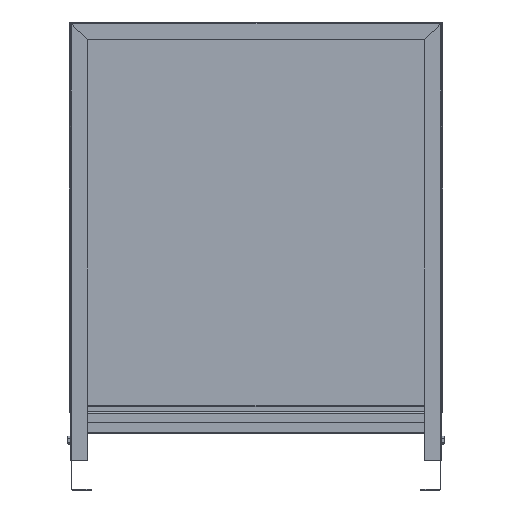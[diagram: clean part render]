
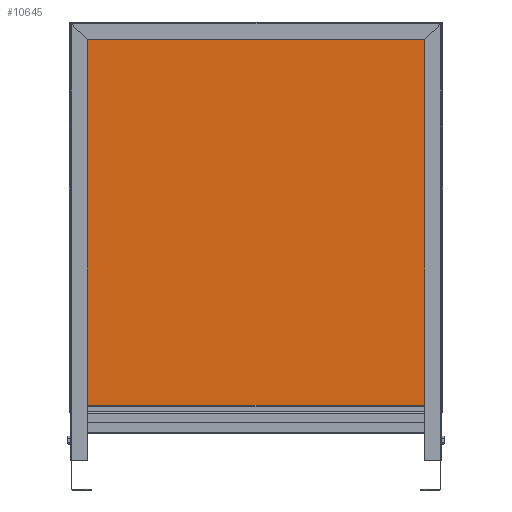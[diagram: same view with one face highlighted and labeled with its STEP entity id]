
A CAD part, front view. The second image highlights one B-rep face of the part: STEP entity #10645.
In plain terms, the highlighted planar face has unit normal (0, -1, 0).
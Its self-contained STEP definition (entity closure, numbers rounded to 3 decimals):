
#10361=CARTESIAN_POINT('',(273.5,0.8,647.2));
#10362=VERTEX_POINT('',#10361);
#10370=CARTESIAN_POINT('',(273.5,0.8,81.8));
#10371=VERTEX_POINT('',#10370);
#10372=CARTESIAN_POINT('',(273.5,0.8,647.2));
#10373=DIRECTION('',(0.,0.,-1.));
#10374=VECTOR('',#10373,565.4);
#10375=LINE('',#10372,#10374);
#10376=EDGE_CURVE('',#10362,#10371,#10375,.T.);
#10414=CARTESIAN_POINT('',(-273.5,0.8,81.8));
#10415=VERTEX_POINT('',#10414);
#10423=CARTESIAN_POINT('',(-273.5,0.8,647.2));
#10424=VERTEX_POINT('',#10423);
#10425=CARTESIAN_POINT('',(-273.5,0.8,81.8));
#10426=DIRECTION('',(0.,0.,1.));
#10427=VECTOR('',#10426,565.4);
#10428=LINE('',#10425,#10427);
#10429=EDGE_CURVE('',#10415,#10424,#10428,.T.);
#10577=CARTESIAN_POINT('',(273.5,0.8,81.8));
#10578=DIRECTION('',(-1.,0.,0.));
#10579=VECTOR('',#10578,547.);
#10580=LINE('',#10577,#10579);
#10581=EDGE_CURVE('',#10371,#10415,#10580,.T.);
#10611=CARTESIAN_POINT('',(-273.5,0.8,647.2));
#10612=DIRECTION('',(1.,0.,-0.));
#10613=VECTOR('',#10612,547.);
#10614=LINE('',#10611,#10613);
#10615=EDGE_CURVE('',#10424,#10362,#10614,.T.);
#10634=CARTESIAN_POINT('',(0.,0.8,0.));
#10635=DIRECTION('',(0.,1.,0.));
#10636=DIRECTION('',(-1.,0.,0.));
#10637=AXIS2_PLACEMENT_3D('',#10634,#10635,#10636);
#10638=PLANE('',#10637);
#10639=ORIENTED_EDGE('',*,*,#10581,.F.);
#10640=ORIENTED_EDGE('',*,*,#10376,.F.);
#10641=ORIENTED_EDGE('',*,*,#10615,.F.);
#10642=ORIENTED_EDGE('',*,*,#10429,.F.);
#10643=EDGE_LOOP('',(#10639,#10640,#10641,#10642));
#10644=FACE_BOUND('',#10643,.T.);
#10645=ADVANCED_FACE('',(#10644),#10638,.F.);
